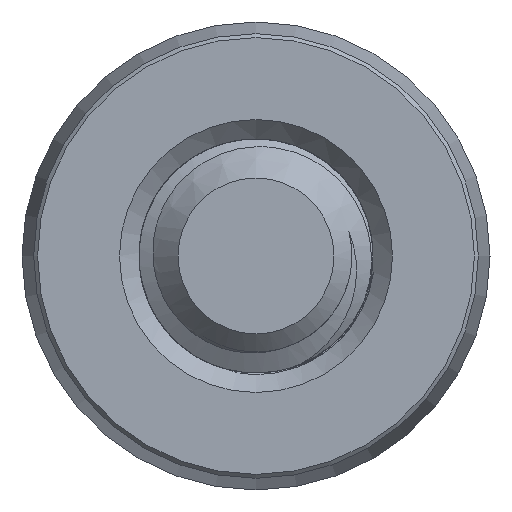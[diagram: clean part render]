
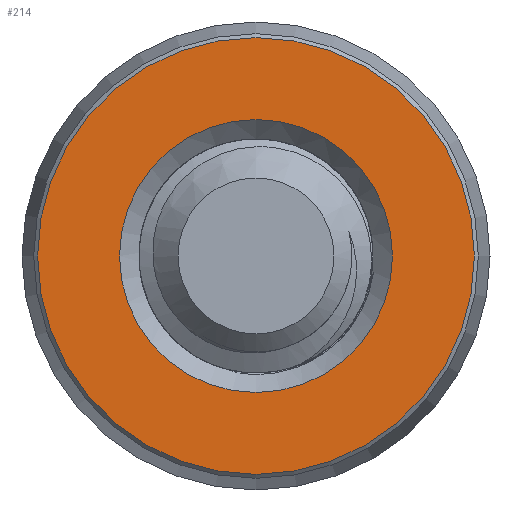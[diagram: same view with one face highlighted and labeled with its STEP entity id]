
A CAD part, front view. The second image highlights one B-rep face of the part: STEP entity #214.
In plain terms, the highlighted planar face has unit normal (0, -1, 0).
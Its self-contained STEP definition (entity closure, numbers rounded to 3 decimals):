
#130 = FACE_BOUND ( 'NONE', #5147, .T. ) ;
#214 = ADVANCED_FACE ( 'NONE', ( #130, #1869 ), #8757, .F. ) ;
#297 = CARTESIAN_POINT ( 'NONE',  ( 0., 0., 3.5 ) ) ;
#471 = VERTEX_POINT ( 'NONE', #297 ) ;
#1093 = EDGE_CURVE ( 'NONE', #4375, #4375, #8181, .T. ) ;
#1174 = CIRCLE ( 'NONE', #7994, 3.5 ) ;
#1407 = AXIS2_PLACEMENT_3D ( 'NONE', #8819, #8081, #3649 ) ;
#1516 = EDGE_CURVE ( 'NONE', #471, #471, #1174, .T. ) ;
#1869 = FACE_OUTER_BOUND ( 'NONE', #4662, .T. ) ;
#3649 = DIRECTION ( 'NONE',  ( 0., 0., 1. ) ) ;
#4375 = VERTEX_POINT ( 'NONE', #8459 ) ;
#4611 = DIRECTION ( 'NONE',  ( 0., 0., 1. ) ) ;
#4662 = EDGE_LOOP ( 'NONE', ( #8615 ) ) ;
#4677 = DIRECTION ( 'NONE',  ( 0., 0., 1. ) ) ;
#5147 = EDGE_LOOP ( 'NONE', ( #8581 ) ) ;
#7705 = AXIS2_PLACEMENT_3D ( 'NONE', #9061, #8306, #4677 ) ;
#7794 = CARTESIAN_POINT ( 'NONE',  ( 0., 0., 0. ) ) ;
#7994 = AXIS2_PLACEMENT_3D ( 'NONE', #7794, #8860, #4611 ) ;
#8081 = DIRECTION ( 'NONE',  ( 0., 1., 0. ) ) ;
#8181 = CIRCLE ( 'NONE', #7705, 5.6 ) ;
#8306 = DIRECTION ( 'NONE',  ( 0., -1., 0. ) ) ;
#8459 = CARTESIAN_POINT ( 'NONE',  ( 0., 0., 5.6 ) ) ;
#8581 = ORIENTED_EDGE ( 'NONE', *, *, #1516, .T. ) ;
#8615 = ORIENTED_EDGE ( 'NONE', *, *, #1093, .T. ) ;
#8757 = PLANE ( 'NONE',  #1407 ) ;
#8819 = CARTESIAN_POINT ( 'NONE',  ( -5.7, 0., 0. ) ) ;
#8860 = DIRECTION ( 'NONE',  ( 0., 1., 0. ) ) ;
#9061 = CARTESIAN_POINT ( 'NONE',  ( 0., 0., 0. ) ) ;
